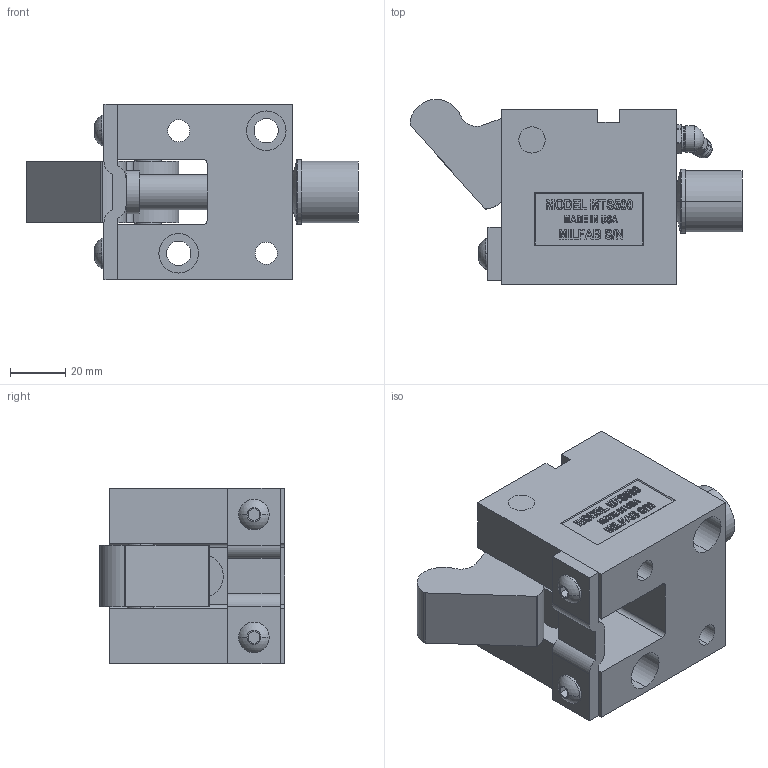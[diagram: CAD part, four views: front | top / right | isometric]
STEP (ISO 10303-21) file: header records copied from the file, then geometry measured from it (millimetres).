
FILE_DESCRIPTION (( 'STEP AP214' ), '1' );
FILE_NAME ('MTS50045-O.STEP', '2014-01-07T23:17:56', ( 'user' ), ( '' ), 'SwSTEP 2.0', 'SolidWorks 2009', '' );
FILE_SCHEMA (( 'AUTOMOTIVE_DESIGN' ));
Length unit declared in the file: inch
Products named in the file (11): 500-WASHER; M-I-500-POINT; 500 PIVOT PIN; GREASE ZERK; 1-4 SCREW; 500-I-STRAP; 500 STRIPPER OPEN; 500-OFFSET TRIGGER; MS500-PUNCH; MTS500-BODY; MTS50045-O
Assembly tree (11 placements, depth 2):
  MTS50045-O
    M-I-500-POINT
    500 PIVOT PIN
    1-4 SCREW  x2
    MS500-PUNCH
    GREASE ZERK
    500-I-STRAP
    500 STRIPPER OPEN
    500-OFFSET TRIGGER
    MTS500-BODY
    500-WASHER
Bounding box: 120.27 x 67.08 x 63.5 mm (x, y, z)
Volume: 228721.3 mm3; surface area: 58115.3 mm2
Topology: 11 solids, 11 shells, 588 faces, 1517 edges, 996 vertices
Faces by surface type: plane 343, bspline 99, cylinder 92, cone 30, torus 20, sphere 4
Entity records: 23776 total; most frequent: CARTESIAN_POINT 9979, ORIENTED_EDGE 2946, DIRECTION 2375, EDGE_CURVE 1473, VECTOR 973, LINE 973, VERTEX_POINT 970, AXIS2_PLACEMENT_3D 701
